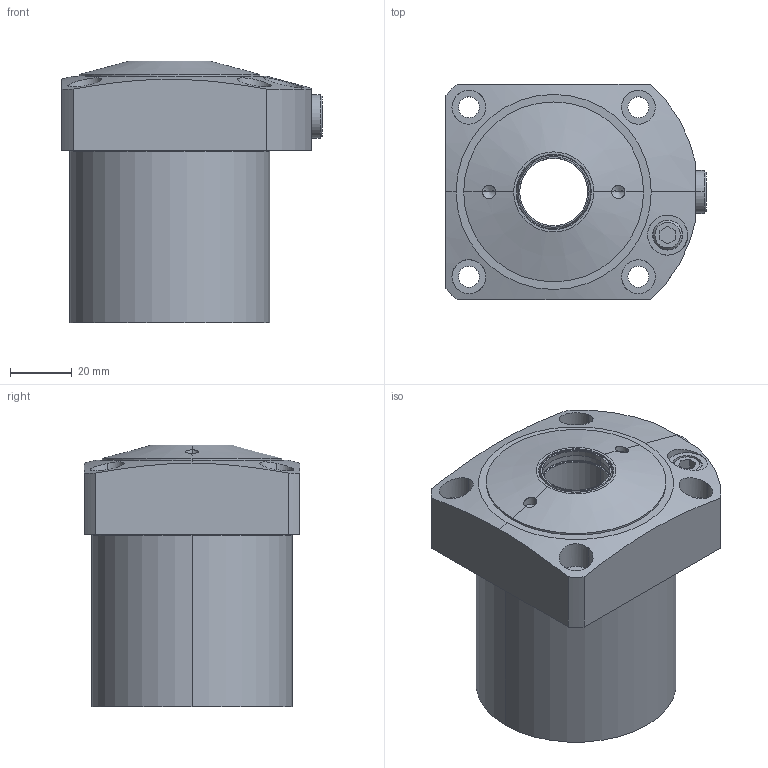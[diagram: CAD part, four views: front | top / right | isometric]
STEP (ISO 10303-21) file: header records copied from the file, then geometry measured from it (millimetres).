
FILE_DESCRIPTION(/* description */ (''),/* implementation_level */ '2;1');
FILE_NAME(/* name */ 'KFSS65-C.stp',/* time_stamp */ '2022-11-17T07:55:19+08:00',/* author */ (''),/* organization */ (''),/* preprocessor_version */ 'ST-DEVELOPER v16.7',/* originating_system */ 'SIEMENS PLM Software NX 12.0',/* authorisation */ '');
FILE_SCHEMA (('AP203_CONFIGURATION_CONTROLLED_3D_DESIGN_OF_MECHANICAL_PARTS_AND_ASSEMBLIES_MIM_LF { 1 0 10303 403 2 1 2}'));
Length unit declared in the file: millimetre
Products named in the file (4): KFSS65-C-03; KFSS65-C-02; KFSS65-C-01; LC0652-Cx-D_step
Assembly tree (3 placements, depth 2):
  LC0652-Cx-D_step
    KFSS65-C-01
    KFSS65-C-02
    KFSS65-C-03
Bounding box: 84.5 x 70 x 85 mm (x, y, z)
Volume: 280353.4 mm3; surface area: 37973.7 mm2
Topology: 3 solids, 3 shells, 157 faces, 340 edges, 204 vertices
Faces by surface type: cylinder 54, cone 44, plane 41, torus 18
Entity records: 4897 total; most frequent: CARTESIAN_POINT 933, DIRECTION 810, ORIENTED_EDGE 672, EDGE_CURVE 336, AXIS2_PLACEMENT_3D 333, VERTEX_POINT 204, EDGE_LOOP 186, CIRCLE 172
